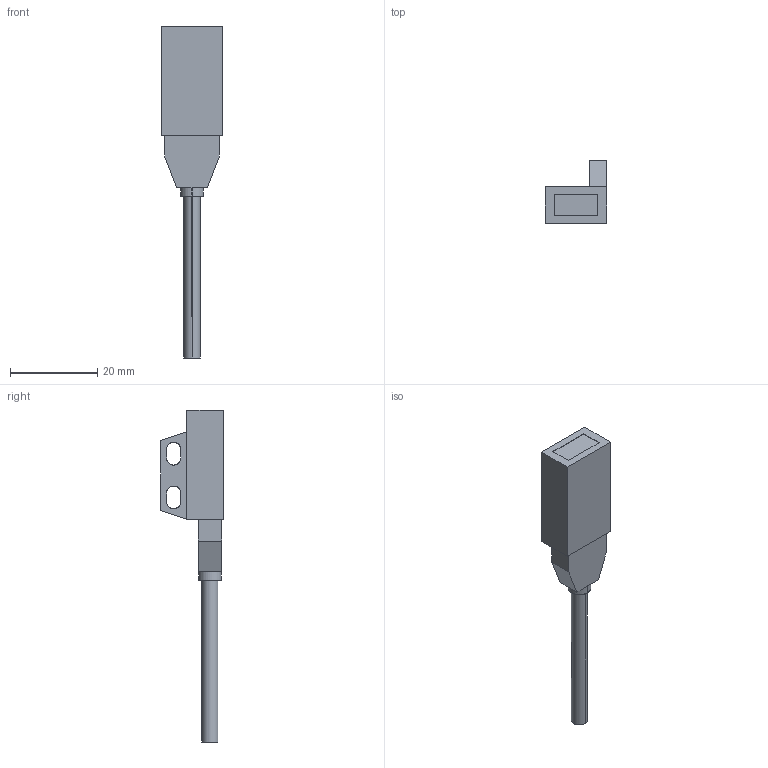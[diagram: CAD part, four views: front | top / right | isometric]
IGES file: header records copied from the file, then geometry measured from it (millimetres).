
Start section: SolidWorks IGES FILE using analytic representation for surfaces
Global section: file name: \\intra-srv04\開発データ\CAD_Data\CAD委員会\3D電子ｶﾀﾛｸﾞ\製品カタログ（新）\0_IGES\PM2-LL10-C1.IGS,41HSolidWorks 2004; native system: by SolidWorks Corporation; preprocessor: Version 5.3; author: yk0651; date: 050906.105945; units: millimetre
Bounding box: 14 x 14.4 x 76 mm (x, y, z)
Surface area: 2492.8 mm2 (no closed solid volume)
Topology: 0 solids, 0 shells, 41 faces, 498 edges, 498 vertices
Faces by surface type: bspline 29, revolution 12
